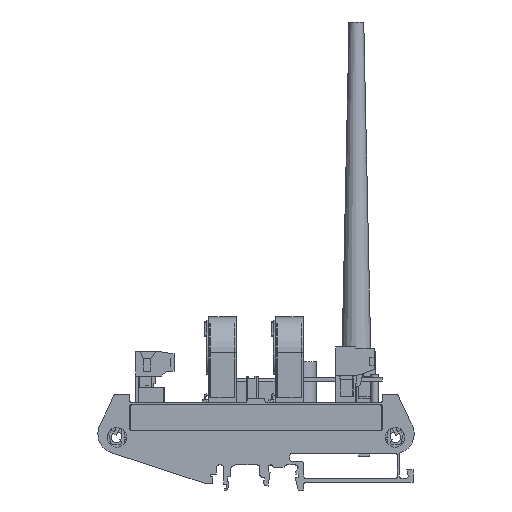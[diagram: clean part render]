
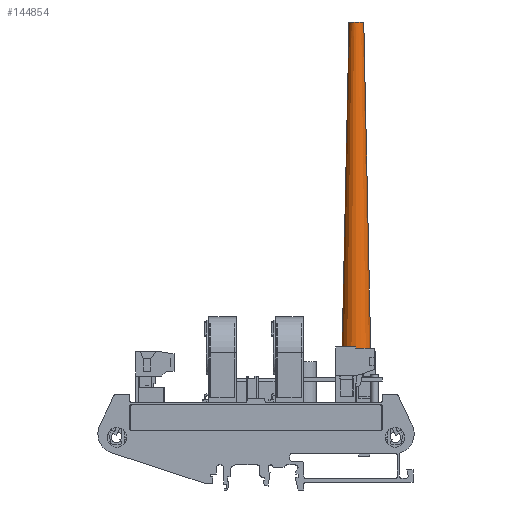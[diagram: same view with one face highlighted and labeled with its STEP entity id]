
A CAD part, left-side view. The second image highlights one B-rep face of the part: STEP entity #144854.
In plain terms, the highlighted conical face has half-angle 1.236 degrees and reference radius 6 mm.
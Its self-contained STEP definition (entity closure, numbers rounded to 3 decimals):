
#144854 = ADVANCED_FACE('',(#144855),#144868,.T.);
#144855 = FACE_BOUND('',#144856,.T.);
#144856 = EDGE_LOOP('',(#144857,#144891,#144914,#144941));
#144857 = ORIENTED_EDGE('',*,*,#144858,.F.);
#144858 = EDGE_CURVE('',#144859,#144859,#144861,.T.);
#144859 = VERTEX_POINT('',#144860);
#144860 = CARTESIAN_POINT('',(3.,0.,139.));
#144861 = SURFACE_CURVE('',#144862,(#144867,#144879),.PCURVE_S1.);
#144862 = CIRCLE('',#144863,3.);
#144863 = AXIS2_PLACEMENT_3D('',#144864,#144865,#144866);
#144864 = CARTESIAN_POINT('',(0.,0.,139.));
#144865 = DIRECTION('',(0.,0.,1.));
#144866 = DIRECTION('',(1.,0.,-0.));
#144867 = PCURVE('',#144868,#144873);
#144868 = CONICAL_SURFACE('',#144869,6.,0.022);
#144869 = AXIS2_PLACEMENT_3D('',#144870,#144871,#144872);
#144870 = CARTESIAN_POINT('',(0.,0.,0.));
#144871 = DIRECTION('',(-0.,-0.,-1.));
#144872 = DIRECTION('',(1.,0.,-0.));
#144873 = DEFINITIONAL_REPRESENTATION('',(#144874),#144878);
#144874 = LINE('',#144875,#144876);
#144875 = CARTESIAN_POINT('',(-0.,-139.));
#144876 = VECTOR('',#144877,1.);
#144877 = DIRECTION('',(-1.,-0.));
#144878 = ( GEOMETRIC_REPRESENTATION_CONTEXT(2) 
PARAMETRIC_REPRESENTATION_CONTEXT() REPRESENTATION_CONTEXT('2D SPACE',''
  ) );
#144879 = PCURVE('',#144880,#144885);
#144880 = PLANE('',#144881);
#144881 = AXIS2_PLACEMENT_3D('',#144882,#144883,#144884);
#144882 = CARTESIAN_POINT('',(0.,0.,139.));
#144883 = DIRECTION('',(0.,0.,1.));
#144884 = DIRECTION('',(1.,0.,-0.));
#144885 = DEFINITIONAL_REPRESENTATION('',(#144886),#144890);
#144886 = CIRCLE('',#144887,3.);
#144887 = AXIS2_PLACEMENT_2D('',#144888,#144889);
#144888 = CARTESIAN_POINT('',(0.,0.));
#144889 = DIRECTION('',(1.,0.));
#144890 = ( GEOMETRIC_REPRESENTATION_CONTEXT(2) 
PARAMETRIC_REPRESENTATION_CONTEXT() REPRESENTATION_CONTEXT('2D SPACE',''
  ) );
#144891 = ORIENTED_EDGE('',*,*,#144892,.F.);
#144892 = EDGE_CURVE('',#144893,#144859,#144895,.T.);
#144893 = VERTEX_POINT('',#144894);
#144894 = CARTESIAN_POINT('',(6.,0.,0.));
#144895 = SEAM_CURVE('',#144896,(#144900,#144907),.PCURVE_S1.);
#144896 = LINE('',#144897,#144898);
#144897 = CARTESIAN_POINT('',(6.,0.,0.));
#144898 = VECTOR('',#144899,1.);
#144899 = DIRECTION('',(-0.022,0.,1.));
#144900 = PCURVE('',#144868,#144901);
#144901 = DEFINITIONAL_REPRESENTATION('',(#144902),#144906);
#144902 = LINE('',#144903,#144904);
#144903 = CARTESIAN_POINT('',(-6.283,0.));
#144904 = VECTOR('',#144905,1.);
#144905 = DIRECTION('',(-0.,-1.));
#144906 = ( GEOMETRIC_REPRESENTATION_CONTEXT(2) 
PARAMETRIC_REPRESENTATION_CONTEXT() REPRESENTATION_CONTEXT('2D SPACE',''
  ) );
#144907 = PCURVE('',#144868,#144908);
#144908 = DEFINITIONAL_REPRESENTATION('',(#144909),#144913);
#144909 = LINE('',#144910,#144911);
#144910 = CARTESIAN_POINT('',(0.,-0.));
#144911 = VECTOR('',#144912,1.);
#144912 = DIRECTION('',(-0.,-1.));
#144913 = ( GEOMETRIC_REPRESENTATION_CONTEXT(2) 
PARAMETRIC_REPRESENTATION_CONTEXT() REPRESENTATION_CONTEXT('2D SPACE',''
  ) );
#144914 = ORIENTED_EDGE('',*,*,#144915,.T.);
#144915 = EDGE_CURVE('',#144893,#144893,#144916,.T.);
#144916 = SURFACE_CURVE('',#144917,(#144922,#144929),.PCURVE_S1.);
#144917 = CIRCLE('',#144918,6.);
#144918 = AXIS2_PLACEMENT_3D('',#144919,#144920,#144921);
#144919 = CARTESIAN_POINT('',(0.,0.,0.));
#144920 = DIRECTION('',(0.,0.,1.));
#144921 = DIRECTION('',(1.,0.,-0.));
#144922 = PCURVE('',#144868,#144923);
#144923 = DEFINITIONAL_REPRESENTATION('',(#144924),#144928);
#144924 = LINE('',#144925,#144926);
#144925 = CARTESIAN_POINT('',(-0.,-0.));
#144926 = VECTOR('',#144927,1.);
#144927 = DIRECTION('',(-1.,-0.));
#144928 = ( GEOMETRIC_REPRESENTATION_CONTEXT(2) 
PARAMETRIC_REPRESENTATION_CONTEXT() REPRESENTATION_CONTEXT('2D SPACE',''
  ) );
#144929 = PCURVE('',#144930,#144935);
#144930 = PLANE('',#144931);
#144931 = AXIS2_PLACEMENT_3D('',#144932,#144933,#144934);
#144932 = CARTESIAN_POINT('',(0.,0.,0.));
#144933 = DIRECTION('',(0.,0.,1.));
#144934 = DIRECTION('',(1.,0.,-0.));
#144935 = DEFINITIONAL_REPRESENTATION('',(#144936),#144940);
#144936 = CIRCLE('',#144937,6.);
#144937 = AXIS2_PLACEMENT_2D('',#144938,#144939);
#144938 = CARTESIAN_POINT('',(0.,0.));
#144939 = DIRECTION('',(1.,0.));
#144940 = ( GEOMETRIC_REPRESENTATION_CONTEXT(2) 
PARAMETRIC_REPRESENTATION_CONTEXT() REPRESENTATION_CONTEXT('2D SPACE',''
  ) );
#144941 = ORIENTED_EDGE('',*,*,#144892,.T.);
